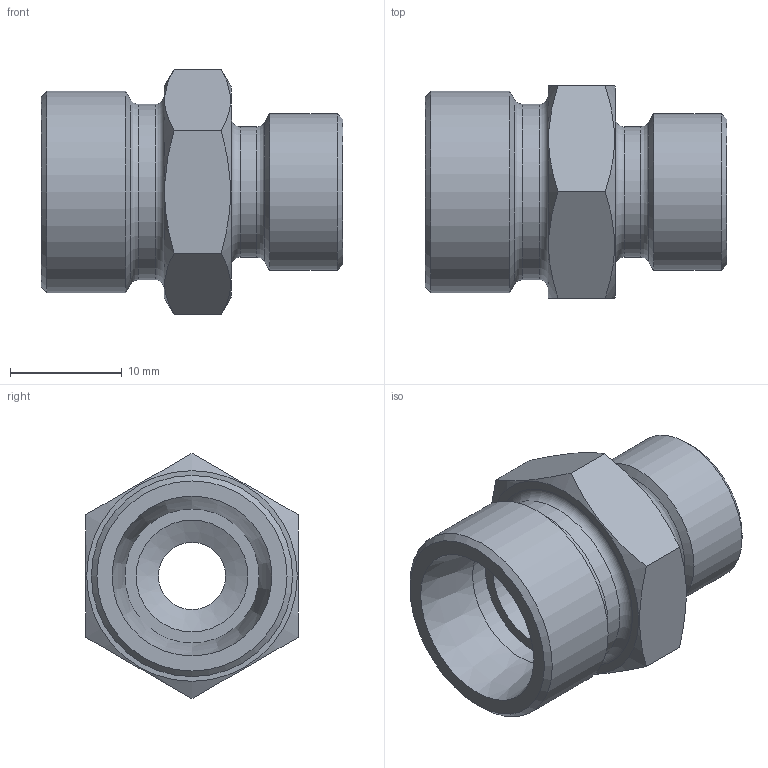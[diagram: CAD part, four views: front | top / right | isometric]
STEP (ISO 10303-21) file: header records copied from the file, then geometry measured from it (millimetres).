
FILE_DESCRIPTION( ( 'Unknown' ), '1' );
FILE_NAME( 'C:/Users/p.nanko/Desktop/3D SR/XGR1208L.stp', 'Unknown', ( 'Peter Nanko' ), ( 'Armaturen Arndt' ), 'PSStep 14.0', 'Solid Edge ST4', ' ' );
FILE_SCHEMA( ( 'AUTOMOTIVE_DESIGN { 1 0 10303 214 1 1 1 1 }' ) );
Length unit declared in the file: millimetre
Products named in the file (1): 1
Bounding box: 27 x 19 x 21.94 mm (x, y, z)
Volume: 3835.8 mm3; surface area: 2764.3 mm2
Topology: 1 solids, 1 shells, 33 faces, 70 edges, 43 vertices
Faces by surface type: plane 12, cone 9, cylinder 8, torus 4
Full cylindrical faces by diameter (mm): 6 x1, 8 x1, 10 x1, 11.7 x1, 12 x1, 14 x1, 15.7 x1, 18 x1
Entity records: 1124 total; most frequent: CARTESIAN_POINT 248, DIRECTION 126, ORIENTED_EDGE 88, AXIS2_PLACEMENT_3D 60, EDGE_LOOP 60, FACE_OUTER_BOUND 45, EDGE_CURVE 44, VERTEX_POINT 38
